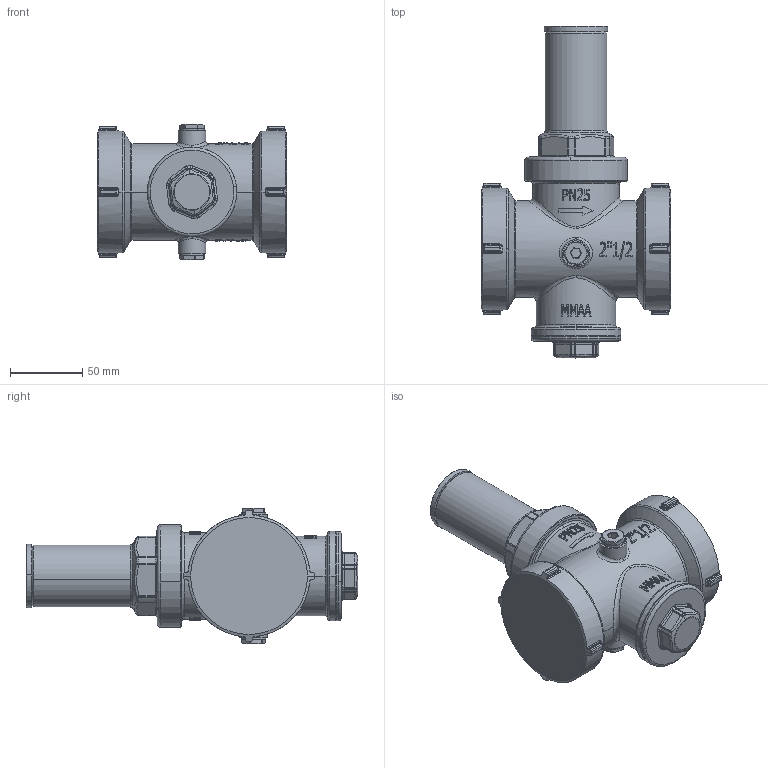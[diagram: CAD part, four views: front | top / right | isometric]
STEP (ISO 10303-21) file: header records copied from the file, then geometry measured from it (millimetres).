
FILE_DESCRIPTION (( 'STEP AP214' ), '1' );
FILE_NAME ('BPR407_standardowy_reduktor_cisnienia_9040710_0_3D_AFRISO.STEP', '2025-06-04T10:31:30', ( '' ), ( '' ), 'SwSTEP 2.0', 'SolidWorks 2024', '' );
FILE_SCHEMA (( 'AUTOMOTIVE_DESIGN' ));
Length unit declared in the file: millimetre
Products named in the file (6): 3301.542.00; BPR407_standardowy_reduktor_cisnienia_9040710_0_3D_AFRISO; 3101.542.00; 3001.566.02; 4401.008.00; 7001.235.42
Assembly tree (6 placements, depth 2):
  BPR407_standardowy_reduktor_cisnienia_9040710_0_3D_AFRISO
    3001.566.02
    3101.542.00
    3301.542.00
    4401.008.00  x2
    7001.235.42
Bounding box: 131 x 230 x 94 mm (x, y, z)
Volume: 983205.8 mm3; surface area: 98161.9 mm2
Topology: 6 solids, 6 shells, 1112 faces, 2884 edges, 1840 vertices
Faces by surface type: plane 426, cylinder 308, bspline 216, torus 104, cone 46, sphere 12
Entity records: 83038 total; most frequent: CARTESIAN_POINT 48274, ORIENTED_EDGE 5438, DIRECTION 4537, EDGE_CURVE 2719, VERTEX_POINT 1740, AXIS2_PLACEMENT_3D 1619, LINE 1299, VECTOR 1299
